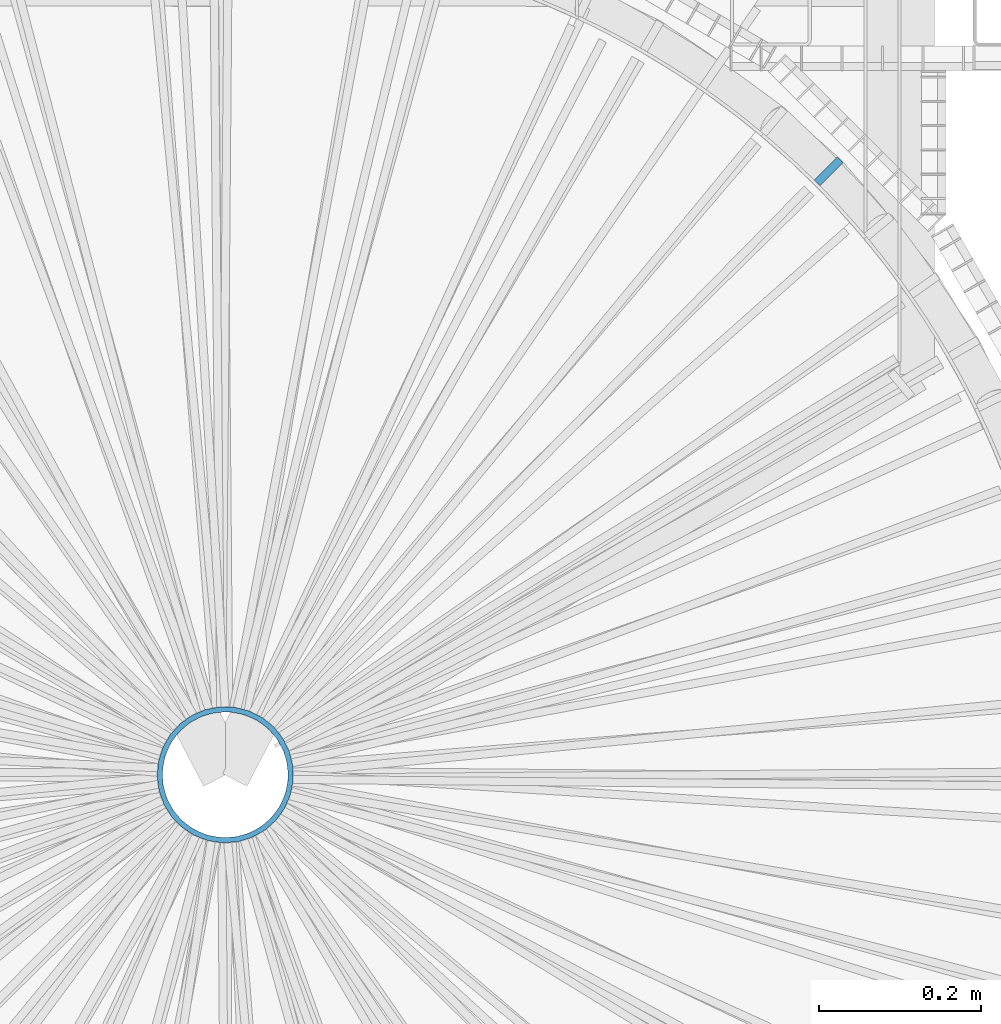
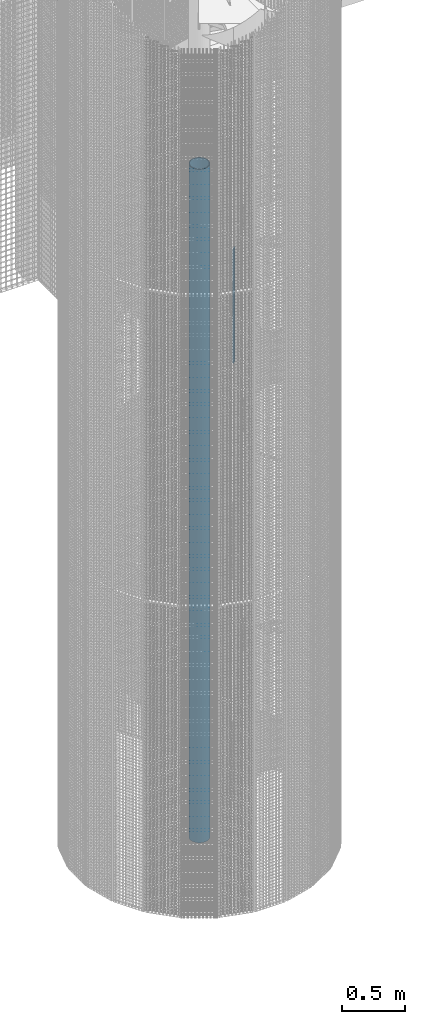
# One storey, part 52 of 1148: 2 columns, 2 elements without a shape of their own.
"""IFC2X3 building model written with IfcOpenShell, lengths in millimetres."""

from ifc_helpers import new_model, si_unit, frame, origin_with_axes, origin_2d_with_axis, place, context, subcontext, project, spatial, rectangle, hollow_circle, extrude, material, type_object, element, aggregate, save


model = new_model("IFC2X3")

# Units and contexts
model_context = context("Model", 3, precision=1e-05, world=origin_with_axes())
body_context = subcontext(model_context, "Body", "Model", "MODEL_VIEW")
ifc_project = project(units=[si_unit("LENGTHUNIT", "METRE", prefix="MILLI"), si_unit("AREAUNIT", "SQUARE_METRE"), si_unit("VOLUMEUNIT", "CUBIC_METRE"), si_unit("MASSUNIT", "GRAM", prefix="KILO"), si_unit("TIMEUNIT", "SECOND"), si_unit("PLANEANGLEUNIT", "RADIAN"), si_unit("SOLIDANGLEUNIT", "STERADIAN"), si_unit("THERMODYNAMICTEMPERATUREUNIT", "DEGREE_CELSIUS"), si_unit("LUMINOUSINTENSITYUNIT", "LUMEN")], contexts=[model_context])

# Site, building, storey
site_placement = place(None, origin_with_axes())
site = spatial("IfcSite", under=ifc_project, at=site_placement, Name="Undefined", CompositionType="ELEMENT")
building_placement = place(site_placement, origin_with_axes())
building = spatial("IfcBuilding", under=site, at=building_placement, Name="Undefined", CompositionType="ELEMENT")
storey_placement = place(building_placement, origin_with_axes())
storey = spatial("IfcBuildingStorey", under=building, at=storey_placement, Name="Undefined", CompositionType="ELEMENT", Elevation=0.0)

# Assembly, column
assembly_1_placement = place(storey_placement, origin_with_axes())
assembly_1 = element("IfcElementAssembly", 1, at=assembly_1_placement, inside=storey, Name="MONTANT", AssemblyPlace="NOTDEFINED", PredefinedType="NOTDEFINED")
ifc_material = material(Name="STEEL/S235JR")
column_type_1 = type_object("IfcColumnType", Name="PL10*40", PredefinedType="NOTDEFINED")
column_1_placement = place(assembly_1_placement, frame((22345.2905473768, 745.290547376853, 3863.0), z_axis=(0.0, 0.0, 1.0), x_axis=(-0.70710678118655, -0.707106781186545, 0.0)))
column_1 = element("IfcColumn", 2, at=column_1_placement, type_object=column_type_1, material=ifc_material, Name="MONTANT", context=body_context, shape_type="SweptSolid", body=[
    extrude(rectangle(XDim=10.0, YDim=40.0, at=origin_2d_with_axis()), frame((0.0, 0.0, 1100.0), z_axis=(0.0, 0.0, -1.0), x_axis=(0.0, 1.0, 0.0)), (0.0, 0.0, 1.0), 1100.0),
])
aggregate(assembly_1, [column_1])

assembly_2_placement = place(storey_placement, origin_with_axes())
assembly_2 = element("IfcElementAssembly", 3, at=assembly_2_placement, inside=storey, Name="POTEAU", AssemblyPlace="NOTDEFINED", PredefinedType="NOTDEFINED")
column_type_2 = type_object("IfcColumnType", Name="TUBE-168.3*6.3", PredefinedType="NOTDEFINED")
column_2_placement = place(assembly_2_placement, frame((21600.0, 0.0, 0.0), z_axis=(0.0, 0.0, 1.0), x_axis=(-0.49999999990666, -0.866025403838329, 0.0)))
column_2 = element("IfcColumn", 4, at=column_2_placement, type_object=column_type_2, material=ifc_material, Name="POTEAU", context=body_context, shape_type="SweptSolid", body=[
    extrude(hollow_circle(Radius=84.15000155, WallThickness=6.300000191, at=origin_2d_with_axis()), frame((0.0, 0.0, 6490.0), z_axis=(0.0, 0.0, -1.0), x_axis=(0.0, 1.0, 0.0)), (0.0, 0.0, 1.0), 6490.0),
])
aggregate(assembly_2, [column_2])

save(model, "model.ifc")
